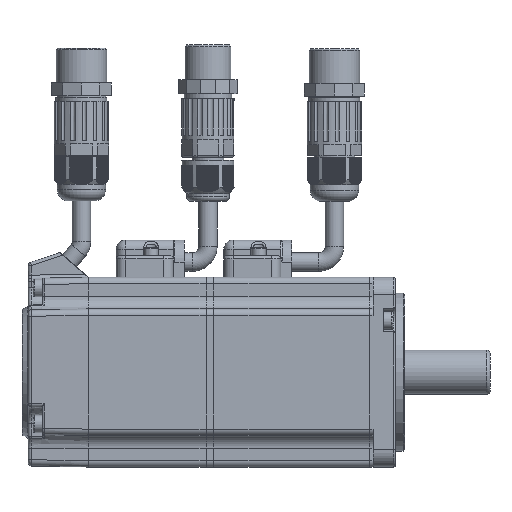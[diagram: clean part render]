
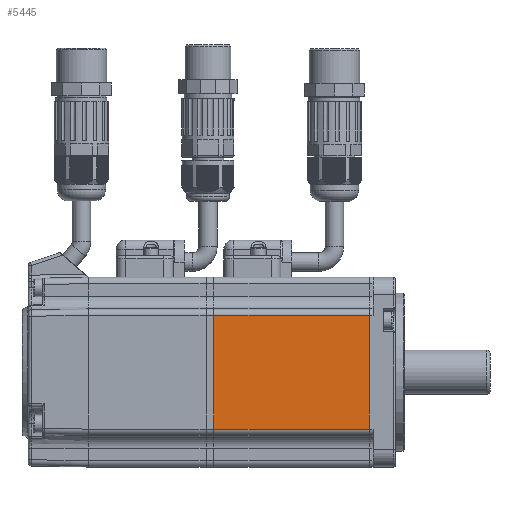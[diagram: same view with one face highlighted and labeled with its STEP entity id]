
A CAD part, left-side view. The second image highlights one B-rep face of the part: STEP entity #5445.
In plain terms, the highlighted planar face has unit normal (-1, 0, 0).
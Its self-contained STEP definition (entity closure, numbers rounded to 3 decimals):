
#3015=FACE_OUTER_BOUND('',#18083,.T.);
#5445=ADVANCED_FACE('',(#3015),#8133,.F.);
#8133=PLANE('',#47033);
#10039=LINE('',#62349,#13738);
#10051=LINE('',#62395,#13750);
#10052=LINE('',#62397,#13751);
#10078=LINE('',#62477,#13777);
#13738=VECTOR('',#50881,1.);
#13750=VECTOR('',#50923,1.);
#13751=VECTOR('',#50926,1.);
#13777=VECTOR('',#51020,1.);
#18083=EDGE_LOOP('',(#21199,#21200,#21201,#21202));
#21199=ORIENTED_EDGE('',*,*,#39042,.T.);
#21200=ORIENTED_EDGE('',*,*,#39018,.F.);
#21201=ORIENTED_EDGE('',*,*,#39041,.T.);
#21202=ORIENTED_EDGE('',*,*,#39080,.F.);
#34623=VERTEX_POINT('',#62348);
#34624=VERTEX_POINT('',#62350);
#34642=VERTEX_POINT('',#62394);
#34643=VERTEX_POINT('',#62398);
#39018=EDGE_CURVE('',#34623,#34624,#10039,.T.);
#39041=EDGE_CURVE('',#34623,#34642,#10051,.T.);
#39042=EDGE_CURVE('',#34643,#34624,#10052,.T.);
#39080=EDGE_CURVE('',#34643,#34642,#10078,.T.);
#47033=AXIS2_PLACEMENT_3D('',#62478,#51021,#51022);
#50881=DIRECTION('',(0.,0.,-1.));
#50923=DIRECTION('',(0.,1.,0.));
#50926=DIRECTION('',(0.,-1.,0.));
#51020=DIRECTION('',(0.,0.,1.));
#51021=DIRECTION('',(1.,0.,0.));
#51022=DIRECTION('',(0.,-1.,0.));
#62348=CARTESIAN_POINT('',(-115.303,95.19,32.521));
#62349=CARTESIAN_POINT('',(-115.303,95.19,14.521));
#62350=CARTESIAN_POINT('',(-115.303,95.19,-3.479));
#62394=CARTESIAN_POINT('',(-115.303,144.291,32.521));
#62395=CARTESIAN_POINT('',(-115.303,144.19,32.521));
#62397=CARTESIAN_POINT('',(-115.303,144.19,-3.479));
#62398=CARTESIAN_POINT('',(-115.303,144.291,-3.479));
#62477=CARTESIAN_POINT('',(-115.303,144.291,14.521));
#62478=CARTESIAN_POINT('',(-115.303,144.19,-15.479));
